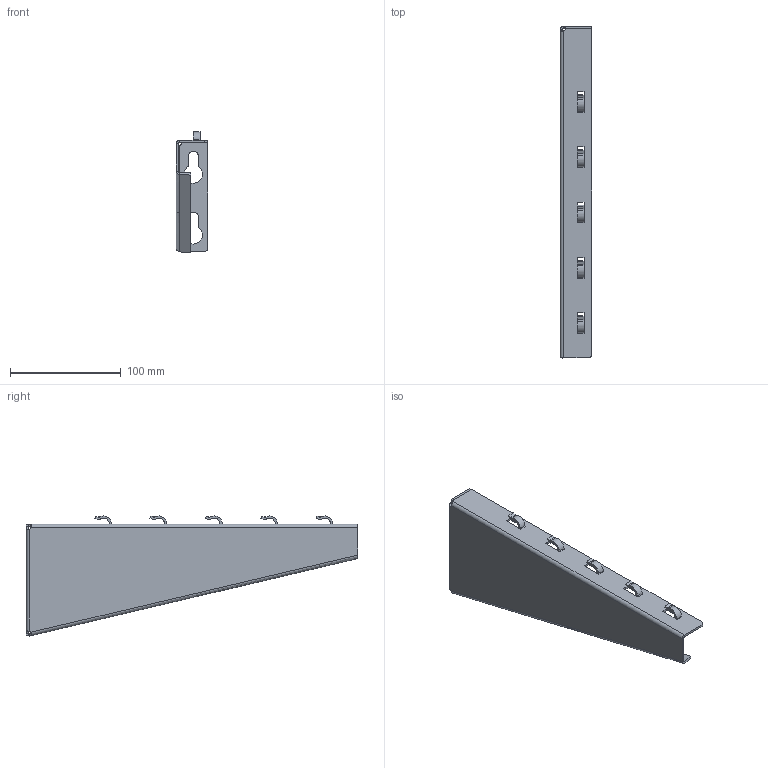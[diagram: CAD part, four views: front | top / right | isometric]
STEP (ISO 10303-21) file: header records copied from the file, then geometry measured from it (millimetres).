
FILE_DESCRIPTION(/* description */ (''),/* implementation_level */ '2;1');
FILE_NAME(/* name */ 'NZM300',/* time_stamp */ '2025-03-13T20:52:12+01:00',/* author */ (''),/* organization */ (''),/* preprocessor_version */ 'ST-DEVELOPER v16.5',/* originating_system */ '',/* authorisation */ '');
FILE_SCHEMA (('CONFIG_CONTROL_DESIGN'));
Length unit declared in the file: millimetre
Products named in the file (1): Document
Bounding box: 28.52 x 299.89 x 108.47 mm (x, y, z)
Surface area: 67908.1 mm2 (no closed solid volume)
Topology: 0 solids, 6 shells, 142 faces, 384 edges, 248 vertices
Faces by surface type: plane 55, bspline 55, cylinder 32
Entity records: 4530 total; most frequent: CARTESIAN_POINT 2181, ORIENTED_EDGE 744, EDGE_CURVE 384, VERTEX_POINT 248, EDGE_LOOP 156, B_SPLINE_CURVE_WITH_KNOTS 148, ADVANCED_FACE 142, FACE_OUTER_BOUND 142
